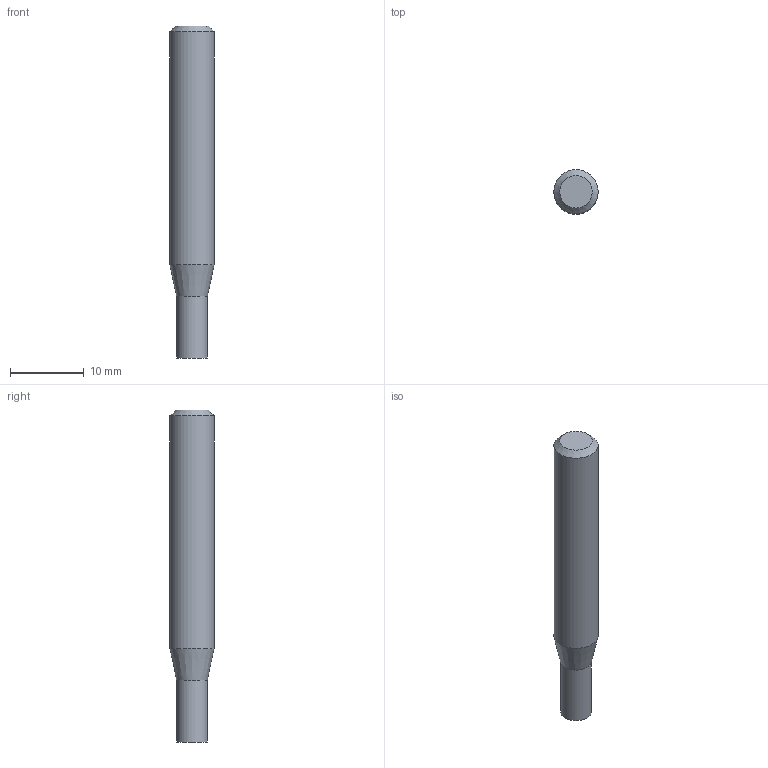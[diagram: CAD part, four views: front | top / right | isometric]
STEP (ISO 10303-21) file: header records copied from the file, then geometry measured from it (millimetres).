
FILE_DESCRIPTION((''),'2;1');
FILE_NAME('C:\Users\nsx150\AppData\Local\Temp\Mastercam 2021\E36A1X9CCL\TEMP.step','2023-04-21T15:12:55',(''),(''),'STEP Write','Mastercam 2021 ... CNC Software, Inc.','');
FILE_SCHEMA(('AUTOMOTIVE_DESIGN'));
Length unit declared in the file: millimetre
Products named in the file (1): None
Bounding box: 6 x 6 x 45 mm (x, y, z)
Volume: 1113.4 mm3; surface area: 850.4 mm2
Topology: 2 solids, 2 shells, 8 faces, 10 edges, 6 vertices
Faces by surface type: plane 4, cylinder 2, cone 2
Full cylindrical faces by diameter (mm): 4.2 x1, 6 x1
Entity records: 190 total; most frequent: DIRECTION 32, CARTESIAN_POINT 22, AXIS2_PLACEMENT_3D 16, ORIENTED_EDGE 12, EDGE_LOOP 12, STYLED_ITEM 11, ADVANCED_FACE 8, VERTEX_POINT 6
